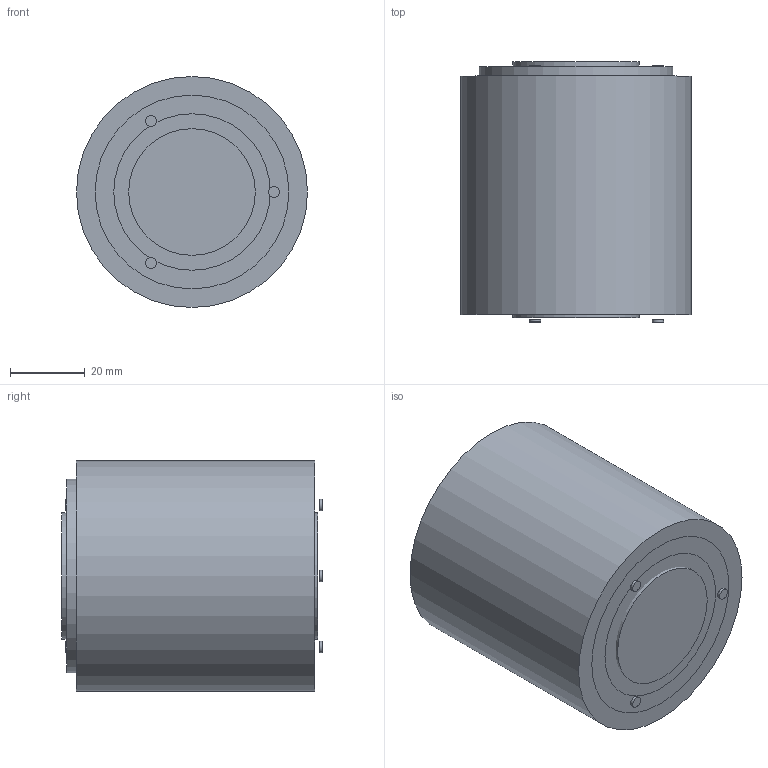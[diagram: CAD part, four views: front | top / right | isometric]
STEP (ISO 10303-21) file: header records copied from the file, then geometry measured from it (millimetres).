
FILE_DESCRIPTION(('FreeCAD Model'),'2;1');
FILE_NAME('Open CASCADE Shape Model','2026-10-05T09:22:52',('Author'),( ''),'Open CASCADE STEP processor 7.8','FreeCAD','Unknown');
FILE_SCHEMA(('AUTOMOTIVE_DESIGN { 1 0 10303 214 1 1 1 1 }'));
Length unit declared in the file: millimetre
Products named in the file (12): Export_elbow_link; ElbowBearingBarrel; ElbowRace-1; ElbowHub-1; ElbowBolt_-1_0; ElbowBolt_-1_120; ElbowBolt_-1_240; ElbowRace1; ElbowHub1; ElbowBolt_1_0; ElbowBolt_1_120; ElbowBolt_1_240
Assembly tree (11 placements, depth 2):
  Export_elbow_link
    ElbowBearingBarrel
    ElbowRace-1
    ElbowHub-1
    ElbowBolt_-1_0
    ElbowBolt_-1_120
    ElbowBolt_-1_240
    ElbowRace1
    ElbowHub1
    ElbowBolt_1_0
    ElbowBolt_1_120
    ElbowBolt_1_240
Bounding box: 62 x 69.8 x 62 mm (x, y, z)
Volume: 202388.8 mm3; surface area: 27341.3 mm2
Topology: 11 solids, 11 shells, 47 faces, 57 edges, 38 vertices
Faces by surface type: plane 28, cylinder 19
Full cylindrical faces by diameter (mm): 1.2 x6, 3 x6, 34 x2, 42 x2, 52 x2, 62 x1
Entity records: 1145 total; most frequent: DIRECTION 213, CARTESIAN_POINT 154, ORIENTED_EDGE 114, AXIS2_PLACEMENT_3D 97, FACE_BOUND 57, EDGE_LOOP 57, EDGE_CURVE 57, ADVANCED_FACE 47
